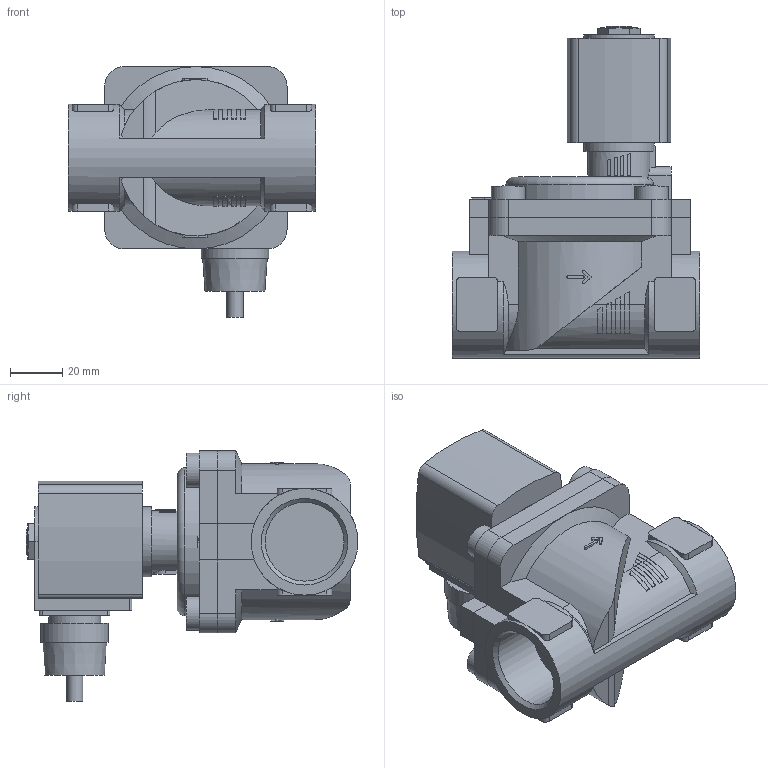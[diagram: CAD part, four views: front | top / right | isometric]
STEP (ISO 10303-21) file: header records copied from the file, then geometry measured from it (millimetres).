
FILE_DESCRIPTION(/* description */ ('STEP AP214'),/* implementation_level */ '2;1');
FILE_NAME(/* name */ '6281-378217-2_2-Way_Solenoid_Valve__Servo-assisted__General_Purpose',/* time_stamp */ '2024-08-27T16:26:27+02:00',/* author */ ('License CC BY-ND 4.0'),/* organization */ ('CADENAS'),/* preprocessor_version */ 'ST-DEVELOPER v19.3',/* originating_system */ 'PARTsolutions',/* authorisation */ ' ');
FILE_SCHEMA (('AUTOMOTIVE_DESIGN {1 0 10303 214 3 1 1}'));
Length unit declared in the file: millimetre
Products named in the file (4): 6281-378217-2/2-Way Solenoid Valve, Servo-assisted, General Purpose; 5281ev250VA2/2-Wege-Magnetventil mit Servomembran-Deckel   ; 6213-25G1VA-Gehaeuse-; AC10ex-6ATEXKabelPlan-Coil
Assembly tree (3 placements, depth 2):
  6281-378217-2/2-Way Solenoid Valve, Servo-assisted, General Purpose
    5281ev250VA2/2-Wege-Magnetventil mit Servomembran-Deckel   
    6213-25G1VA-Gehaeuse-
    AC10ex-6ATEXKabelPlan-Coil
Bounding box: 95 x 127.5 x 96.3 mm (x, y, z)
Volume: 330828.1 mm3; surface area: 58110.3 mm2
Topology: 3 solids, 3 shells, 304 faces, 799 edges, 527 vertices
Faces by surface type: plane 195, cylinder 93, cone 15, torus 1
Full cylindrical faces by diameter (mm): 6.2 x1, 9.74 x1, 13 x4, 20 x1, 26 x1, 27 x1, 30.291 x2, 41 x1
Entity records: 10333 total; most frequent: CARTESIAN_POINT 1861, DIRECTION 1558, ORIENTED_EDGE 1546, EDGE_CURVE 773, AXIS2_PLACEMENT_3D 548, VERTEX_POINT 519, LINE 462, VECTOR 462
